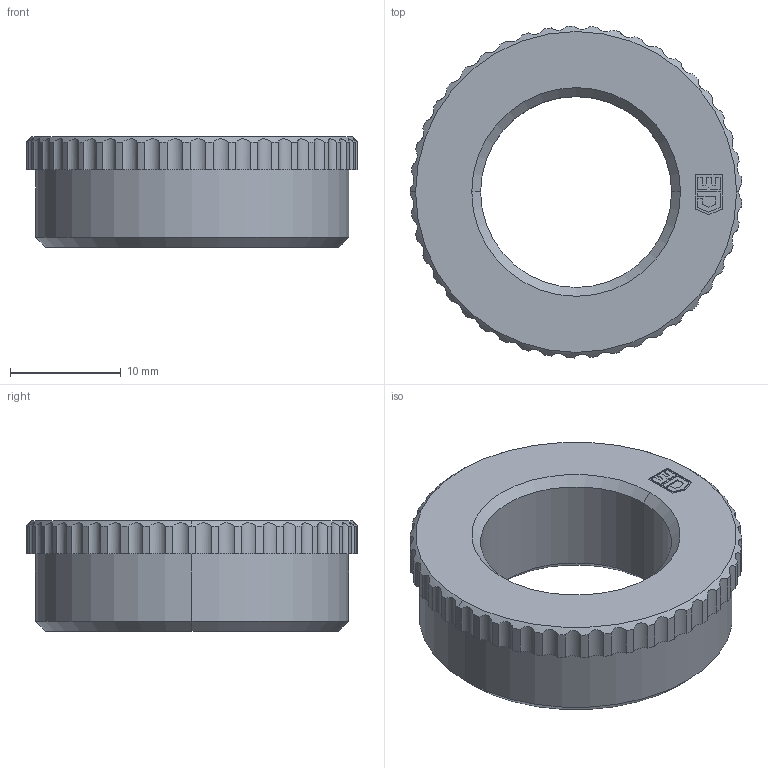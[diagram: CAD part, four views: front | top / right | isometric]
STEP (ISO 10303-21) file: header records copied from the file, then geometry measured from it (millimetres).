
FILE_DESCRIPTION (( 'STEP AP203' ), '1' );
FILE_NAME ('2111.STEP', '2005-11-22T09:18:05', ( ' ' ), ( '' ), 'SwSTEP 2.0', 'SolidWorks 2005278', '' );
FILE_SCHEMA (( 'CONFIG_CONTROL_DESIGN' ));
Length unit declared in the file: millimetre
Products named in the file (1): 2111
Bounding box: 29.98 x 30 x 10 mm (x, y, z)
Volume: 4066.9 mm3; surface area: 2270.5 mm2
Topology: 1 solids, 1 shells, 142 faces, 402 edges, 266 vertices
Faces by surface type: cylinder 94, plane 40, cone 8
Entity records: 5045 total; most frequent: CARTESIAN_POINT 1217, ORIENTED_EDGE 804, DIRECTION 794, EDGE_CURVE 402, AXIS2_PLACEMENT_3D 295, VERTEX_POINT 266, VECTOR 204, LINE 204
